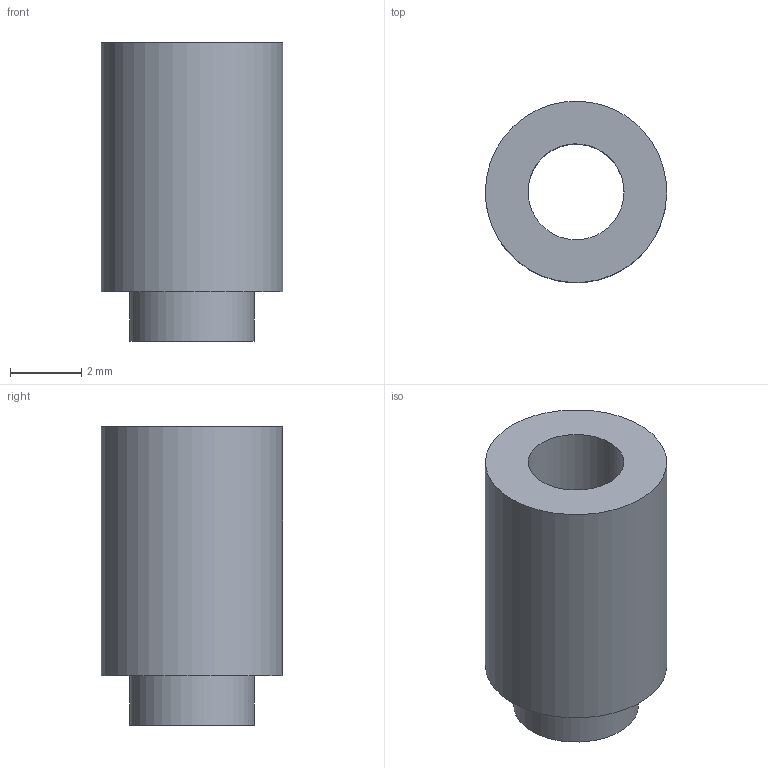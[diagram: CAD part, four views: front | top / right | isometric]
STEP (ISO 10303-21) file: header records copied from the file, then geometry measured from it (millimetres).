
FILE_DESCRIPTION(('FreeCAD Model'),'2;1');
FILE_NAME('Open CASCADE Shape Model','2026-03-20T17:23:21',('Author'),( ''),'Open CASCADE STEP processor 7.8','FreeCAD','Unknown');
FILE_SCHEMA(('AP242_MANAGED_MODEL_BASED_3D_ENGINEERING_MIM_LF. {1 0 10303 442 1 1 4 }'));
Length unit declared in the file: millimetre
Products named in the file (1): 1_transformed
Bounding box: 5.1 x 5.09 x 8.4 mm (x, y, z)
Volume: 109.4 mm3; surface area: 228.7 mm2
Topology: 1 solids, 1 shells, 6 faces, 10 edges, 7 vertices
Faces by surface type: bspline 6
Entity records: 209 total; most frequent: CARTESIAN_POINT 113, ORIENTED_EDGE 20, EDGE_CURVE 10, FACE_BOUND 9, EDGE_LOOP 9, VERTEX_POINT 7, ADVANCED_FACE 6, B_SPLINE_SURFACE_WITH_KNOTS 3
